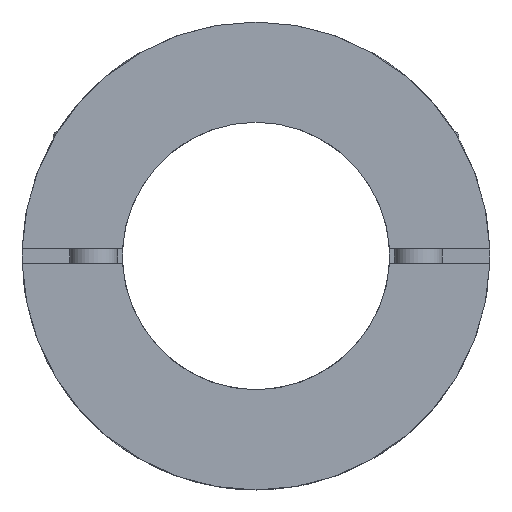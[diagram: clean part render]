
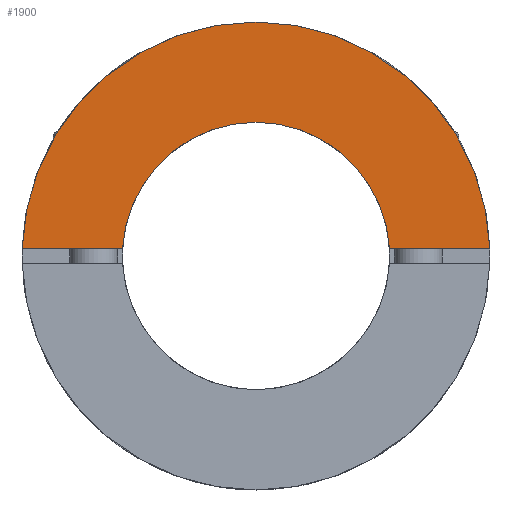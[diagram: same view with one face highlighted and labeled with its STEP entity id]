
A CAD part, left-side view. The second image highlights one B-rep face of the part: STEP entity #1900.
In plain terms, the highlighted planar face has unit normal (-1, 0, 0).
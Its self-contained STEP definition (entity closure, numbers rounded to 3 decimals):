
#21=PLANE('',#2159);
#188=LINE('',#3517,#322);
#190=LINE('',#3520,#324);
#322=VECTOR('',#2617,20.559);
#324=VECTOR('',#2621,20.559);
#481=FACE_OUTER_BOUND('',#604,.T.);
#604=EDGE_LOOP('',(#1537,#1538,#1539,#1540));
#793=CIRCLE('',#2099,24.5);
#827=CIRCLE('',#2149,14.);
#908=VERTEX_POINT('',#3197);
#909=VERTEX_POINT('',#3199);
#960=VERTEX_POINT('',#3481);
#961=VERTEX_POINT('',#3483);
#1122=EDGE_CURVE('',#909,#908,#793,.T.);
#1186=EDGE_CURVE('',#961,#960,#827,.T.);
#1204=EDGE_CURVE('',#908,#961,#188,.T.);
#1206=EDGE_CURVE('',#960,#909,#190,.T.);
#1537=ORIENTED_EDGE('',*,*,#1186,.T.);
#1538=ORIENTED_EDGE('',*,*,#1206,.T.);
#1539=ORIENTED_EDGE('',*,*,#1122,.T.);
#1540=ORIENTED_EDGE('',*,*,#1204,.T.);
#1900=ADVANCED_FACE('',(#481),#21,.T.);
#2099=AXIS2_PLACEMENT_3D('',#3200,#2461,#2462);
#2149=AXIS2_PLACEMENT_3D('',#3484,#2583,#2584);
#2159=AXIS2_PLACEMENT_3D('',#3519,#2619,#2620);
#2461=DIRECTION('center_axis',(-1.,0.,0.));
#2462=DIRECTION('ref_axis',(0.,1.,0.));
#2583=DIRECTION('center_axis',(1.,0.,0.));
#2584=DIRECTION('ref_axis',(0.,0.,1.));
#2617=DIRECTION('',(0.,-1.,0.));
#2619=DIRECTION('center_axis',(-1.,0.,0.));
#2620=DIRECTION('ref_axis',(0.,-1.,0.));
#2621=DIRECTION('',(0.,-1.,0.));
#3197=CARTESIAN_POINT('',(0.,24.489,0.75));
#3199=CARTESIAN_POINT('',(0.,-24.489,0.75));
#3200=CARTESIAN_POINT('Origin',(0.,0.,0.));
#3481=CARTESIAN_POINT('',(0.,-13.98,0.75));
#3483=CARTESIAN_POINT('',(0.,13.98,0.75));
#3484=CARTESIAN_POINT('Origin',(0.,0.,0.));
#3517=CARTESIAN_POINT('',(0.,24.489,0.75));
#3519=CARTESIAN_POINT('Origin',(0.,0.,-4.));
#3520=CARTESIAN_POINT('',(0.,-3.929,0.75));
